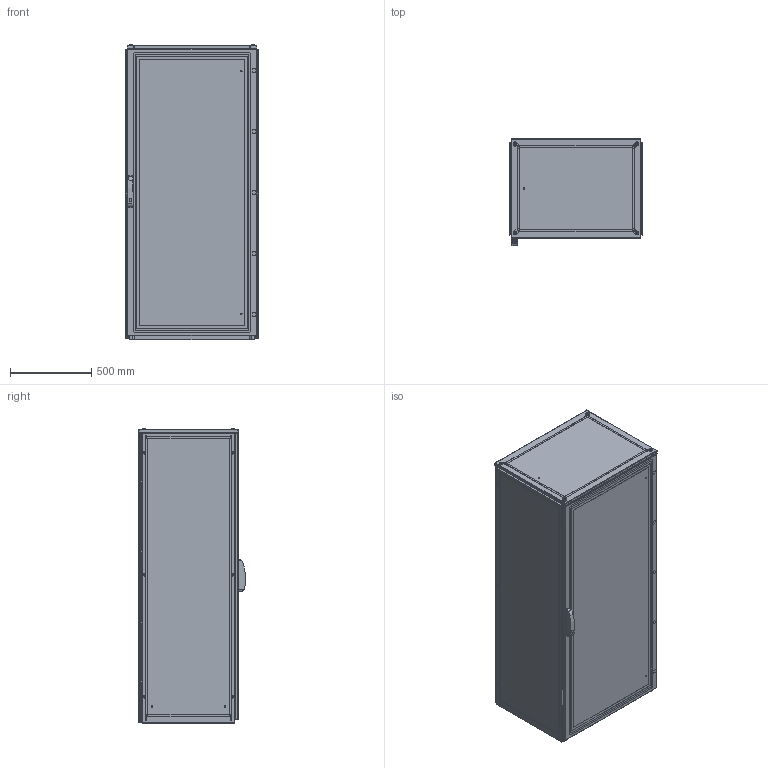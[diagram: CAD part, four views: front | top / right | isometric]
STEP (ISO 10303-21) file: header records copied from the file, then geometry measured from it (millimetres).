
FILE_DESCRIPTION(/* description */ ('STEP AP214'),/* implementation_level */ '2;1');
FILE_NAME(/* name */ 'ENUX081806PR-LOD350',/* time_stamp */ '2025-10-03T09:29:17+02:00',/* author */ ('License CC BY-ND 4.0'),/* organization */ ('CADENAS'),/* preprocessor_version */ 'ST-DEVELOPER v19.3',/* originating_system */ 'PARTsolutions',/* authorisation */ ' ');
FILE_SCHEMA (('AUTOMOTIVE_DESIGN {1 0 10303 214 3 1 1}'));
Length unit declared in the file: millimetre
Products named in the file (10): ENUX081806PR-LOD350; ENUX081806PR-LOD350_CON; ENUX081806PR-LOD350_floor1; ENUX081806PR-LOD350_floor2; Screw M12x30 architecture 350; ENUX081806PR-LOD350_side; ENUX081806PR-LOD350_top; ENUX081806PR-LOD350_back_door; ENUX081806PR-LOD350_door; ENUX081806PR-LOD350_handle
Assembly tree (16 placements, depth 2):
  ENUX081806PR-LOD350
    ENUX081806PR-LOD350_CON
    ENUX081806PR-LOD350_floor1  x2
    ENUX081806PR-LOD350_floor2  x3
    Screw M12x30 architecture 350  x4
    ENUX081806PR-LOD350_side  x2
    ENUX081806PR-LOD350_top
    ENUX081806PR-LOD350_back_door
    ENUX081806PR-LOD350_door
    ENUX081806PR-LOD350_handle
Bounding box: 812 x 657 x 1814.1 mm (x, y, z)
Volume: 21453058.2 mm3; surface area: 17605629 mm2
Topology: 16 solids, 16 shells, 1796 faces, 5047 edges, 3292 vertices
Faces by surface type: plane 896, cylinder 735, cone 77, torus 72, sphere 16
Full cylindrical faces by diameter (mm): 4.5 x132, 6 x14, 6.8 x8, 9 x9, 12 x16, 13 x4, 18 x1, 21 x4
Entity records: 47411 total; most frequent: CARTESIAN_POINT 8211, DIRECTION 8209, ORIENTED_EDGE 7704, EDGE_CURVE 3852, AXIS2_PLACEMENT_3D 2932, VERTEX_POINT 2693, LINE 2345, VECTOR 2345
